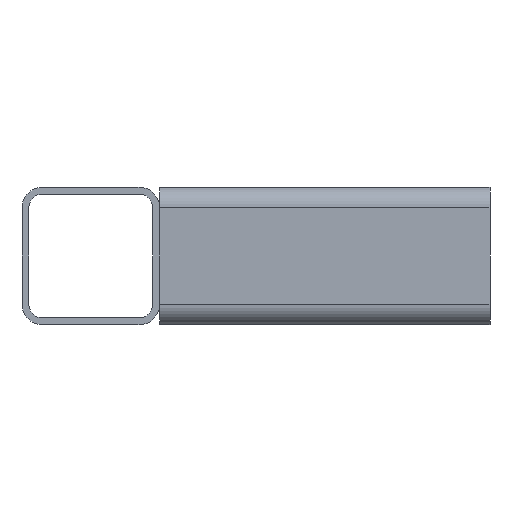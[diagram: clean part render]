
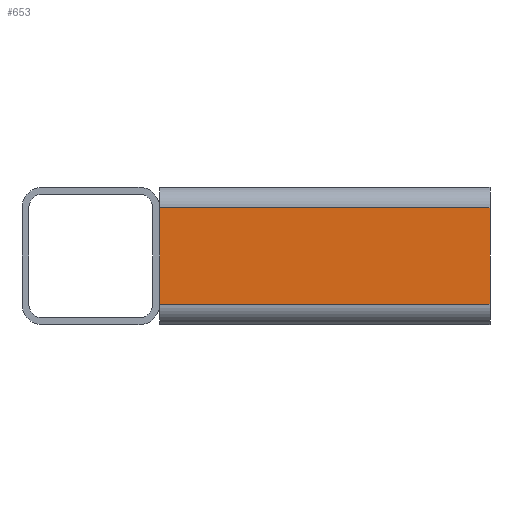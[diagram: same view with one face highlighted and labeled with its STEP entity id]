
A CAD part, left-side view. The second image highlights one B-rep face of the part: STEP entity #653.
In plain terms, the highlighted planar face has unit normal (-1, 0, 0).
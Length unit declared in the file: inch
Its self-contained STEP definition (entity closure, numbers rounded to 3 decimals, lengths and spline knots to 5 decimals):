
#5 = EDGE_CURVE ( 'NONE', #1019, #936, #1236, .T. ) ;
#14 = AXIS2_PLACEMENT_3D ( 'NONE', #416, #419, #408 ) ;
#80 = CARTESIAN_POINT ( 'NONE',  ( -1.25, 0., -0.875 ) ) ;
#104 = ORIENTED_EDGE ( 'NONE', *, *, #1188, .F. ) ;
#132 = DIRECTION ( 'NONE',  ( 0., 0., -1. ) ) ;
#275 = FACE_OUTER_BOUND ( 'NONE', #745, .T. ) ;
#304 = EDGE_CURVE ( 'NONE', #828, #916, #365, .T. ) ;
#365 = LINE ( 'NONE', #994, #553 ) ;
#408 = DIRECTION ( 'NONE',  ( 0., 1., 0. ) ) ;
#410 = PLANE ( 'NONE',  #14 ) ;
#416 = CARTESIAN_POINT ( 'NONE',  ( -1.25, 0., -0.875 ) ) ;
#419 = DIRECTION ( 'NONE',  ( 1., 0., 0. ) ) ;
#494 = CARTESIAN_POINT ( 'NONE',  ( -1.25, 0., 0.875 ) ) ;
#524 = VECTOR ( 'NONE', #626, 39.37008 ) ;
#526 = LINE ( 'NONE', #675, #524 ) ;
#552 = EDGE_CURVE ( 'NONE', #916, #936, #526, .T. ) ;
#553 = VECTOR ( 'NONE', #989, 39.37008 ) ;
#626 = DIRECTION ( 'NONE',  ( 0., 0., 1. ) ) ;
#653 = ADVANCED_FACE ( 'NONE', ( #275 ), #410, .F. ) ;
#675 = CARTESIAN_POINT ( 'NONE',  ( -1.25, 6., -0.875 ) ) ;
#745 = EDGE_LOOP ( 'NONE', ( #774, #1061, #104, #893 ) ) ;
#774 = ORIENTED_EDGE ( 'NONE', *, *, #552, .F. ) ;
#811 = VECTOR ( 'NONE', #132, 39.37008 ) ;
#828 = VERTEX_POINT ( 'NONE', #1152 ) ;
#830 = LINE ( 'NONE', #80, #811 ) ;
#834 = CARTESIAN_POINT ( 'NONE',  ( -1.25, 6., 0.875 ) ) ;
#850 = DIRECTION ( 'NONE',  ( 0., 1., 0. ) ) ;
#853 = CARTESIAN_POINT ( 'NONE',  ( -1.25, 0., 0.875 ) ) ;
#893 = ORIENTED_EDGE ( 'NONE', *, *, #5, .T. ) ;
#896 = CARTESIAN_POINT ( 'NONE',  ( -1.25, 6., -0.875 ) ) ;
#916 = VERTEX_POINT ( 'NONE', #896 ) ;
#936 = VERTEX_POINT ( 'NONE', #834 ) ;
#989 = DIRECTION ( 'NONE',  ( 0., 1., 0. ) ) ;
#994 = CARTESIAN_POINT ( 'NONE',  ( -1.25, 0., -0.875 ) ) ;
#1019 = VERTEX_POINT ( 'NONE', #494 ) ;
#1061 = ORIENTED_EDGE ( 'NONE', *, *, #304, .F. ) ;
#1152 = CARTESIAN_POINT ( 'NONE',  ( -1.25, 0., -0.875 ) ) ;
#1188 = EDGE_CURVE ( 'NONE', #1019, #828, #830, .T. ) ;
#1233 = VECTOR ( 'NONE', #850, 39.37008 ) ;
#1236 = LINE ( 'NONE', #853, #1233 ) ;
